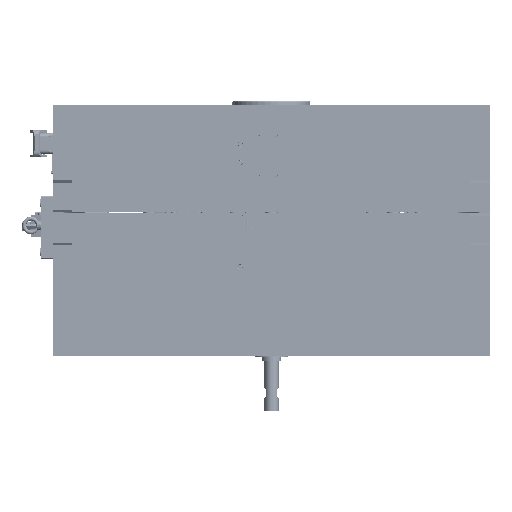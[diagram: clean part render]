
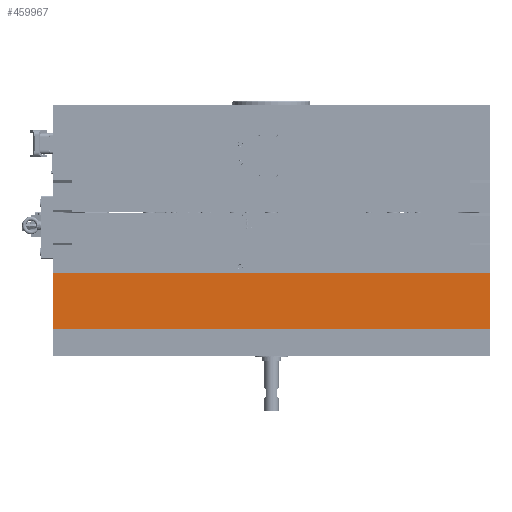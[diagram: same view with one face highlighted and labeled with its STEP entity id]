
A CAD part, front view. The second image highlights one B-rep face of the part: STEP entity #459967.
In plain terms, the highlighted planar face has unit normal (0, -1, 0).
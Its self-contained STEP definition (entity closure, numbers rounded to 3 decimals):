
#9589 = VECTOR ( 'NONE', #154977, 1000. ) ;
#71427 = DIRECTION ( 'NONE',  ( 1., 0., 0. ) ) ;
#93719 = CARTESIAN_POINT ( 'NONE',  ( 448., -348., -188. ) ) ;
#110280 = PLANE ( 'NONE',  #411095 ) ;
#125963 = LINE ( 'NONE', #295140, #470241 ) ;
#142430 = EDGE_CURVE ( 'NONE', #224213, #191086, #125963, .T. ) ;
#149335 = EDGE_CURVE ( 'NONE', #502893, #191086, #249587, .T. ) ;
#154977 = DIRECTION ( 'NONE',  ( 0., 0., -1. ) ) ;
#161242 = EDGE_CURVE ( 'NONE', #304823, #502893, #282583, .T. ) ;
#186289 = ORIENTED_EDGE ( 'NONE', *, *, #161242, .F. ) ;
#191086 = VERTEX_POINT ( 'NONE', #360777 ) ;
#224213 = VERTEX_POINT ( 'NONE', #381717 ) ;
#249587 = LINE ( 'NONE', #335535, #279591 ) ;
#252348 = DIRECTION ( 'NONE',  ( -1., 0., 0. ) ) ;
#279591 = VECTOR ( 'NONE', #252348, 1000. ) ;
#282583 = LINE ( 'NONE', #407397, #9589 ) ;
#284214 = ORIENTED_EDGE ( 'NONE', *, *, #142430, .T. ) ;
#288041 = VECTOR ( 'NONE', #310504, 1000. ) ;
#295140 = CARTESIAN_POINT ( 'NONE',  ( -448., -348., -246. ) ) ;
#304823 = VERTEX_POINT ( 'NONE', #93719 ) ;
#310504 = DIRECTION ( 'NONE',  ( 1., 0., 0. ) ) ;
#323804 = FACE_OUTER_BOUND ( 'NONE', #512226, .T. ) ;
#335535 = CARTESIAN_POINT ( 'NONE',  ( 0., -348., -304. ) ) ;
#360777 = CARTESIAN_POINT ( 'NONE',  ( -448., -348., -304. ) ) ;
#379843 = EDGE_CURVE ( 'NONE', #224213, #304823, #518637, .T. ) ;
#381717 = CARTESIAN_POINT ( 'NONE',  ( -448., -348., -188. ) ) ;
#384506 = ORIENTED_EDGE ( 'NONE', *, *, #379843, .F. ) ;
#386984 = ORIENTED_EDGE ( 'NONE', *, *, #149335, .F. ) ;
#396341 = CARTESIAN_POINT ( 'NONE',  ( 448., -348., -304. ) ) ;
#407397 = CARTESIAN_POINT ( 'NONE',  ( 448., -348., -246. ) ) ;
#411095 = AXIS2_PLACEMENT_3D ( 'NONE', #445980, #443235, #71427 ) ;
#428137 = DIRECTION ( 'NONE',  ( 0., 0., -1. ) ) ;
#443235 = DIRECTION ( 'NONE',  ( 0., 1., 0. ) ) ;
#445980 = CARTESIAN_POINT ( 'NONE',  ( 0., -348., -246. ) ) ;
#459967 = ADVANCED_FACE ( 'NONE', ( #323804 ), #110280, .F. ) ;
#470241 = VECTOR ( 'NONE', #428137, 1000. ) ;
#502893 = VERTEX_POINT ( 'NONE', #396341 ) ;
#512226 = EDGE_LOOP ( 'NONE', ( #284214, #386984, #186289, #384506 ) ) ;
#515905 = CARTESIAN_POINT ( 'NONE',  ( 0., -348., -188. ) ) ;
#518637 = LINE ( 'NONE', #515905, #288041 ) ;
